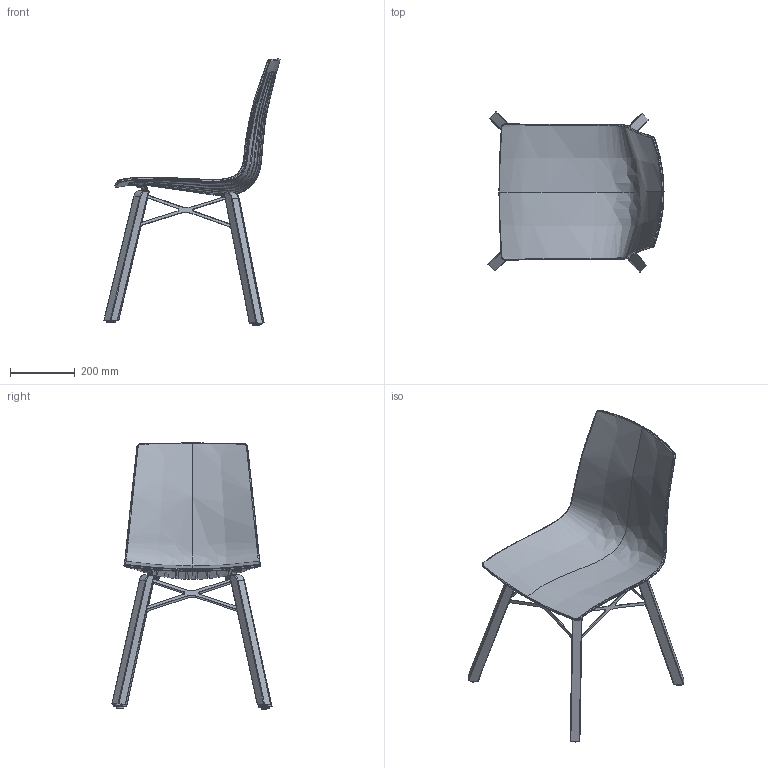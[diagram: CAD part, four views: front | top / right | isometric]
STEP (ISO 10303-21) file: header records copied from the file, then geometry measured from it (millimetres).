
FILE_DESCRIPTION (( 'STEP AP203' ), '1' );
FILE_NAME ('x-treme iroko.STEP', '2014-07-17T11:14:12', ( '' ), ( '' ), 'SwSTEP 2.0', 'SolidWorks 2011', '' );
FILE_SCHEMA (( 'CONFIG_CONTROL_DESIGN' ));
Products named in the file (10): x-treme iroko; vida10; vida; X montaj iroko; M tapa; KARE AYAK; X 霵 kulak; X arka kulak; X ara sac; EXTREME-S_chair--3D__comm.26030
Assembly tree (30 placements, depth 3):
  x-treme iroko
    EXTREME-S_chair--3D__comm.26030
    vida  x8
    X montaj iroko
      X ara sac  x4
      M tapa  x4
      X 霵 kulak  x2
      X arka kulak  x2
      KARE AYAK  x4
    vida10  x4
Bounding box: 542.68 x 493.77 x 820.35 mm (x, y, z)
Volume: 4639383.9 mm3; surface area: 962693 mm2
Topology: 29 solids, 29 shells, 853 faces, 2203 edges, 1420 vertices
Faces by surface type: plane 392, cylinder 265, bspline 112, torus 48, sphere 20, cone 16
Entity records: 46551 total; most frequent: CARTESIAN_POINT 37192, ORIENTED_EDGE 1856, DIRECTION 1250, EDGE_CURVE 928, VERTEX_POINT 614, AXIS2_PLACEMENT_3D 456, B_SPLINE_CURVE_WITH_KNOTS 391, EDGE_LOOP 364
